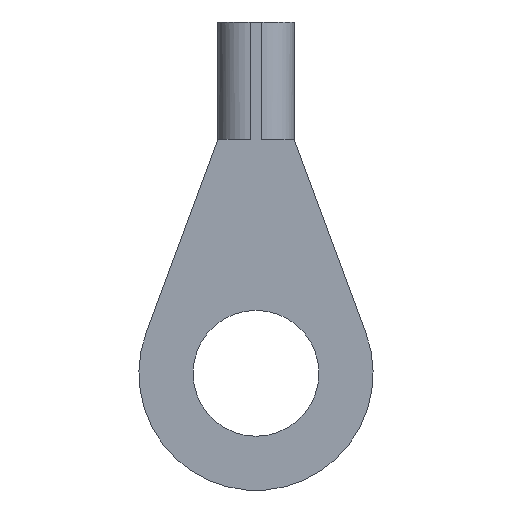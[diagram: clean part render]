
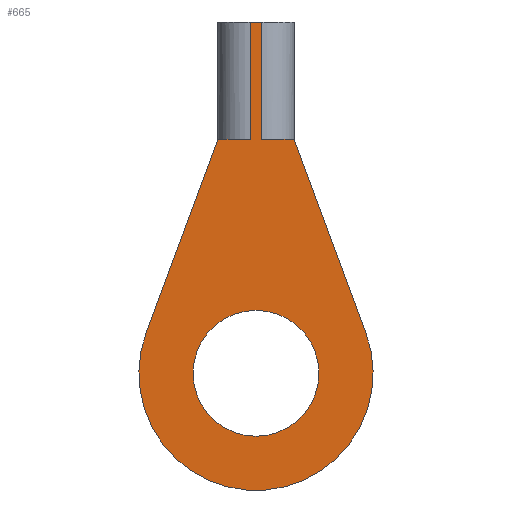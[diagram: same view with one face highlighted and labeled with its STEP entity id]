
A CAD part, front view. The second image highlights one B-rep face of the part: STEP entity #665.
In plain terms, the highlighted planar face has unit normal (0, -1, 0).
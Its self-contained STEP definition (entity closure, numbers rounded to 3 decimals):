
#59 = AXIS2_PLACEMENT_3D ( 'NONE', #269, #270, #271 ) ;
#72 = AXIS2_PLACEMENT_3D ( 'NONE', #579, #580, #581 ) ;
#92 = AXIS2_PLACEMENT_3D ( 'NONE', #276, #277, #278 ) ;
#94 = AXIS2_PLACEMENT_3D ( 'NONE', #343, #340, #347 ) ;
#155 = EDGE_CURVE ( 'NONE', #703, #705, #796, .T. ) ;
#191 = EDGE_CURVE ( 'NONE', #987, #961, #862, .T. ) ;
#200 = EDGE_CURVE ( 'NONE', #988, #961, #876, .T. ) ;
#202 = EDGE_CURVE ( 'NONE', #958, #987, #880, .T. ) ;
#203 = EDGE_CURVE ( 'NONE', #963, #958, #881, .T. ) ;
#204 = EDGE_CURVE ( 'NONE', #964, #963, #883, .T. ) ;
#205 = EDGE_CURVE ( 'NONE', #962, #964, #885, .T. ) ;
#206 = EDGE_CURVE ( 'NONE', #976, #962, #887, .T. ) ;
#207 = EDGE_CURVE ( 'NONE', #988, #976, #888, .T. ) ;
#208 = EDGE_CURVE ( 'NONE', #705, #703, #890, .T. ) ;
#232 = CARTESIAN_POINT ( 'NONE',  ( -0.8, -0.5, 0. ) ) ;
#233 = DIRECTION ( 'NONE',  ( 1., 0., 0. ) ) ;
#243 = DIRECTION ( 'NONE',  ( 0., 0., 1. ) ) ;
#255 = CARTESIAN_POINT ( 'NONE',  ( 0.2, -0.5, -4. ) ) ;
#256 = CARTESIAN_POINT ( 'NONE',  ( -0.2, -0.5, -4. ) ) ;
#257 = DIRECTION ( 'NONE',  ( 0., 0., 1. ) ) ;
#258 = CARTESIAN_POINT ( 'NONE',  ( 1.3, -0.5, -4. ) ) ;
#259 = DIRECTION ( 'NONE',  ( 0.348, 0., -0.938 ) ) ;
#263 = CARTESIAN_POINT ( 'NONE',  ( -1.3, -0.5, -4. ) ) ;
#264 = DIRECTION ( 'NONE',  ( 1., 0., 0. ) ) ;
#265 = CARTESIAN_POINT ( 'NONE',  ( -3.751, -0.5, -10.609 ) ) ;
#266 = DIRECTION ( 'NONE',  ( 0.348, 0., 0.938 ) ) ;
#269 = CARTESIAN_POINT ( 'NONE',  ( 0., -0.5, -12. ) ) ;
#270 = DIRECTION ( 'NONE',  ( 0., 1., 0. ) ) ;
#271 = DIRECTION ( 'NONE',  ( 0., 0., 1. ) ) ;
#272 = CARTESIAN_POINT ( 'NONE',  ( -1.3, -0.5, -4. ) ) ;
#273 = DIRECTION ( 'NONE',  ( 1., 0., 0. ) ) ;
#276 = CARTESIAN_POINT ( 'NONE',  ( 0., -0.5, -12. ) ) ;
#277 = DIRECTION ( 'NONE',  ( 0., 1., 0. ) ) ;
#278 = DIRECTION ( 'NONE',  ( 0., 0., 1. ) ) ;
#340 = DIRECTION ( 'NONE',  ( 0., -1., 0. ) ) ;
#343 = CARTESIAN_POINT ( 'NONE',  ( -0.8, -0.5, -4. ) ) ;
#345 = PLANE ( 'NONE',  #94 ) ;
#347 = DIRECTION ( 'NONE',  ( 0., 0., -1. ) ) ;
#444 = CARTESIAN_POINT ( 'NONE',  ( 0., -0.5, -14.15 ) ) ;
#445 = CARTESIAN_POINT ( 'NONE',  ( 0., -0.5, -9.85 ) ) ;
#465 = CARTESIAN_POINT ( 'NONE',  ( -0.2, -0.5, -4. ) ) ;
#467 = CARTESIAN_POINT ( 'NONE',  ( 0.2, -0.5, 0. ) ) ;
#468 = CARTESIAN_POINT ( 'NONE',  ( 3.751, -0.5, -10.609 ) ) ;
#469 = CARTESIAN_POINT ( 'NONE',  ( -1.3, -0.5, -4. ) ) ;
#470 = CARTESIAN_POINT ( 'NONE',  ( -3.751, -0.5, -10.609 ) ) ;
#579 = CARTESIAN_POINT ( 'NONE',  ( 0., -0.5, -12. ) ) ;
#580 = DIRECTION ( 'NONE',  ( 0., 1., 0. ) ) ;
#581 = DIRECTION ( 'NONE',  ( 0., 0., 1. ) ) ;
#665 = ADVANCED_FACE ( 'NONE', ( #916, #918 ), #345, .T. ) ;
#703 = VERTEX_POINT ( 'NONE', #444 ) ;
#705 = VERTEX_POINT ( 'NONE', #445 ) ;
#796 = CIRCLE ( 'NONE', #72, 2.15 ) ;
#862 = LINE ( 'NONE', #232, #865 ) ;
#865 = VECTOR ( 'NONE', #233, 1000. ) ;
#876 = LINE ( 'NONE', #255, #879 ) ;
#879 = VECTOR ( 'NONE', #257, 1000. ) ;
#880 = LINE ( 'NONE', #256, #882 ) ;
#881 = LINE ( 'NONE', #263, #884 ) ;
#882 = VECTOR ( 'NONE', #243, 1000. ) ;
#883 = LINE ( 'NONE', #265, #886 ) ;
#884 = VECTOR ( 'NONE', #264, 1000. ) ;
#885 = CIRCLE ( 'NONE', #59, 4. ) ;
#886 = VECTOR ( 'NONE', #266, 1000. ) ;
#887 = LINE ( 'NONE', #258, #889 ) ;
#888 = LINE ( 'NONE', #272, #891 ) ;
#889 = VECTOR ( 'NONE', #259, 1000. ) ;
#890 = CIRCLE ( 'NONE', #92, 2.15 ) ;
#891 = VECTOR ( 'NONE', #273, 1000. ) ;
#916 = FACE_OUTER_BOUND ( 'NONE', #1085, .T. ) ;
#918 = FACE_BOUND ( 'NONE', #1086, .T. ) ;
#958 = VERTEX_POINT ( 'NONE', #465 ) ;
#961 = VERTEX_POINT ( 'NONE', #467 ) ;
#962 = VERTEX_POINT ( 'NONE', #468 ) ;
#963 = VERTEX_POINT ( 'NONE', #469 ) ;
#964 = VERTEX_POINT ( 'NONE', #470 ) ;
#976 = VERTEX_POINT ( 'NONE', #1183 ) ;
#987 = VERTEX_POINT ( 'NONE', #1194 ) ;
#988 = VERTEX_POINT ( 'NONE', #1195 ) ;
#1063 = ORIENTED_EDGE ( 'NONE', *, *, #155, .T. ) ;
#1064 = ORIENTED_EDGE ( 'NONE', *, *, #208, .T. ) ;
#1065 = ORIENTED_EDGE ( 'NONE', *, *, #200, .T. ) ;
#1066 = ORIENTED_EDGE ( 'NONE', *, *, #207, .F. ) ;
#1085 = EDGE_LOOP ( 'NONE', ( #1136, #1133, #1132, #1128, #1127, #1125, #1066, #1065 ) ) ;
#1086 = EDGE_LOOP ( 'NONE', ( #1064, #1063 ) ) ;
#1125 = ORIENTED_EDGE ( 'NONE', *, *, #206, .F. ) ;
#1127 = ORIENTED_EDGE ( 'NONE', *, *, #205, .F. ) ;
#1128 = ORIENTED_EDGE ( 'NONE', *, *, #204, .F. ) ;
#1132 = ORIENTED_EDGE ( 'NONE', *, *, #203, .F. ) ;
#1133 = ORIENTED_EDGE ( 'NONE', *, *, #202, .F. ) ;
#1136 = ORIENTED_EDGE ( 'NONE', *, *, #191, .F. ) ;
#1183 = CARTESIAN_POINT ( 'NONE',  ( 1.3, -0.5, -4. ) ) ;
#1194 = CARTESIAN_POINT ( 'NONE',  ( -0.2, -0.5, 0. ) ) ;
#1195 = CARTESIAN_POINT ( 'NONE',  ( 0.2, -0.5, -4. ) ) ;
